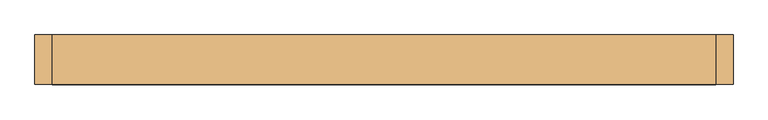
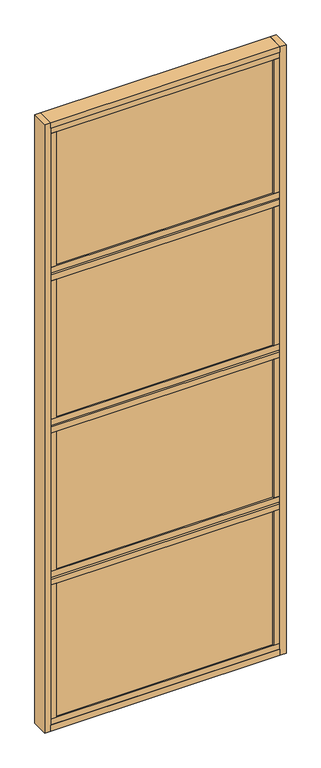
"""IFC4 building model written with IfcOpenShell, lengths in millimetres: door geometry, Mobiliário_Mobiliário de Escritório_Painel de Vidro Duplo - AV4T (Completo)_Marelli : AV4T - Temperado."""

from ifc_helpers import new_model, si_unit, frame, origin, origin_with_axes, place, context, project, spatial, polyline, outline, extrude, source, transform, mapped, element, save


def door_91ea66a1(model_context):
    return source(origin(), model_context, "Body", "SweptSolid", [
        extrude(outline(polyline([(570.0, 42.5), (570.0, -42.5), (-570.0, -42.5), (-570.0, 42.5), (570.0, 42.5)])), origin_with_axes(), (0.0, 0.0, 1.0), 30.0),
        extrude(outline(polyline([(570.0, 39.5), (570.0, -39.5), (-570.0, -39.5), (-570.0, 39.5), (570.0, 39.5)])), frame((0.0, 0.0, 2405.0), z_axis=(0.0, 0.0, 1.0), x_axis=(1.0, 0.0, 0.0)), (0.0, 0.0, 1.0), 30.0),
        extrude(outline(polyline([(-540.0, 39.5), (-540.0, -39.5), (-570.0, -39.5), (-570.0, 39.5), (-540.0, 39.5)])), frame((0.0, 0.0, 2435.0), z_axis=(0.0, 0.0, 1.0), x_axis=(1.0, 0.0, 0.0)), (0.0, 0.0, 1.0), 705.0),
        extrude(outline(polyline([(540.0, 39.5), (570.0, 39.5), (570.0, -39.5), (540.0, -39.5), (540.0, 39.5)])), frame((0.0, 0.0, 2435.0), z_axis=(0.0, 0.0, 1.0), x_axis=(1.0, 0.0, 0.0)), (0.0, 0.0, 1.0), 705.0),
        extrude(outline(polyline([(540.0, -25.5), (540.0, -31.5), (-540.0, -31.5), (-540.0, -25.5), (540.0, -25.5)])), frame((0.0, 0.0, 2435.0), z_axis=(0.0, 0.0, 1.0), x_axis=(1.0, 0.0, 0.0)), (0.0, 0.0, 1.0), 705.0),
        extrude(outline(polyline([(570.0, 21.5), (570.0, -21.5), (-570.0, -21.5), (-570.0, 21.5), (570.0, 21.5)])), frame((0.0, 0.0, 2395.0), z_axis=(0.0, 0.0, 1.0), x_axis=(1.0, 0.0, 0.0)), (0.0, 0.0, 1.0), 10.0),
        extrude(outline(polyline([(570.0, 21.5), (570.0, -21.5), (-570.0, -21.5), (-570.0, 21.5), (570.0, 21.5)])), frame((0.0, 0.0, 1595.0), z_axis=(0.0, 0.0, 1.0), x_axis=(1.0, 0.0, 0.0)), (0.0, 0.0, 1.0), 10.0),
        extrude(outline(polyline([(570.0, 21.5), (570.0, -21.5), (-570.0, -21.5), (-570.0, 21.5), (570.0, 21.5)])), frame((0.0, 0.0, 795.0), z_axis=(0.0, 0.0, 1.0), x_axis=(1.0, 0.0, 0.0)), (0.0, 0.0, 1.0), 10.0),
        extrude(outline(polyline([(570.0, 39.5), (570.0, -39.5), (-570.0, -39.5), (-570.0, 39.5), (570.0, 39.5)])), frame((0.0, 0.0, 1605.0), z_axis=(0.0, 0.0, 1.0), x_axis=(1.0, 0.0, 0.0)), (0.0, 0.0, 1.0), 30.0),
        extrude(outline(polyline([(570.0, 39.5), (570.0, -39.5), (-570.0, -39.5), (-570.0, 39.5), (570.0, 39.5)])), frame((0.0, 0.0, 2365.0), z_axis=(0.0, 0.0, 1.0), x_axis=(1.0, 0.0, 0.0)), (0.0, 0.0, 1.0), 30.0),
        extrude(outline(polyline([(570.0, 39.5), (570.0, -39.5), (-570.0, -39.5), (-570.0, 39.5), (570.0, 39.5)])), frame((0.0, 0.0, 1565.0), z_axis=(0.0, 0.0, 1.0), x_axis=(1.0, 0.0, 0.0)), (0.0, 0.0, 1.0), 30.0),
        extrude(outline(polyline([(570.0, 39.5), (570.0, -39.5), (-570.0, -39.5), (-570.0, 39.5), (570.0, 39.5)])), frame((0.0, 0.0, 805.0), z_axis=(0.0, 0.0, 1.0), x_axis=(1.0, 0.0, 0.0)), (0.0, 0.0, 1.0), 30.0),
        extrude(outline(polyline([(-540.0, 39.5), (-540.0, -39.5), (-570.0, -39.5), (-570.0, 39.5), (-540.0, 39.5)])), frame((0.0, 0.0, 60.0), z_axis=(0.0, 0.0, 1.0), x_axis=(1.0, 0.0, 0.0)), (0.0, 0.0, 1.0), 705.0),
        extrude(outline(polyline([(540.0, 39.5), (570.0, 39.5), (570.0, -39.5), (540.0, -39.5), (540.0, 39.5)])), frame((0.0, 0.0, 60.0), z_axis=(0.0, 0.0, 1.0), x_axis=(1.0, 0.0, 0.0)), (0.0, 0.0, 1.0), 705.0),
        extrude(outline(polyline([(570.0, 39.5), (570.0, -39.5), (-570.0, -39.5), (-570.0, 39.5), (570.0, 39.5)])), frame((0.0, 0.0, 765.0), z_axis=(0.0, 0.0, 1.0), x_axis=(1.0, 0.0, 0.0)), (0.0, 0.0, 1.0), 30.0),
        extrude(outline(polyline([(570.0, 39.5), (570.0, -39.5), (-570.0, -39.5), (-570.0, 39.5), (570.0, 39.5)])), frame((0.0, 0.0, 30.0), z_axis=(0.0, 0.0, 1.0), x_axis=(1.0, 0.0, 0.0)), (0.0, 0.0, 1.0), 30.0),
        extrude(outline(polyline([(540.0, -25.5), (540.0, -31.5), (-540.0, -31.5), (-540.0, -25.5), (540.0, -25.5)])), frame((0.0, 0.0, 60.0), z_axis=(0.0, 0.0, 1.0), x_axis=(1.0, 0.0, 0.0)), (0.0, 0.0, 1.0), 705.0),
        extrude(outline(polyline([(540.0, 31.5), (540.0, 25.5), (-540.0, 25.5), (-540.0, 31.5), (540.0, 31.5)])), frame((0.0, 0.0, 2435.0), z_axis=(0.0, 0.0, 1.0), x_axis=(1.0, 0.0, 0.0)), (0.0, 0.0, 1.0), 705.0),
        extrude(outline(polyline([(540.0, 31.5), (540.0, 25.5), (-540.0, 25.5), (-540.0, 31.5), (540.0, 31.5)])), frame((0.0, 0.0, 60.0), z_axis=(0.0, 0.0, 1.0), x_axis=(1.0, 0.0, 0.0)), (0.0, 0.0, 1.0), 705.0),
        extrude(outline(polyline([(570.0, 42.5), (570.0, -42.5), (-570.0, -42.5), (-570.0, 42.5), (570.0, 42.5)])), frame((0.0, 0.0, 3170.0), z_axis=(0.0, 0.0, 1.0), x_axis=(1.0, 0.0, 0.0)), (0.0, 0.0, 1.0), 30.0),
        extrude(outline(polyline([(570.0, 39.5), (570.0, -39.5), (-570.0, -39.5), (-570.0, 39.5), (570.0, 39.5)])), frame((0.0, 0.0, 3140.0), z_axis=(0.0, 0.0, 1.0), x_axis=(1.0, 0.0, 0.0)), (0.0, 0.0, 1.0), 30.0),
        extrude(outline(polyline([(-600.0, -42.5), (-600.0, 42.5), (-570.0, 42.5), (-570.0, -42.5), (-600.0, -42.5)])), origin_with_axes(), (0.0, 0.0, 1.0), 3200.0),
        extrude(outline(polyline([(600.0, -42.5), (570.0, -42.5), (570.0, 42.5), (600.0, 42.5), (600.0, -42.5)])), origin_with_axes(), (0.0, 0.0, 1.0), 3200.0),
        extrude(outline(polyline([(-540.0, 39.5), (-540.0, -39.5), (-570.0, -39.5), (-570.0, 39.5), (-540.0, 39.5)])), frame((0.0, 0.0, 1635.0), z_axis=(0.0, 0.0, 1.0), x_axis=(1.0, 0.0, 0.0)), (0.0, 0.0, 1.0), 730.0),
        extrude(outline(polyline([(540.0, 39.5), (570.0, 39.5), (570.0, -39.5), (540.0, -39.5), (540.0, 39.5)])), frame((0.0, 0.0, 1635.0), z_axis=(0.0, 0.0, 1.0), x_axis=(1.0, 0.0, 0.0)), (0.0, 0.0, 1.0), 730.0),
        extrude(outline(polyline([(540.0, -25.5), (540.0, -31.5), (-540.0, -31.5), (-540.0, -25.5), (540.0, -25.5)])), frame((0.0, 0.0, 1635.0), z_axis=(0.0, 0.0, 1.0), x_axis=(1.0, 0.0, 0.0)), (0.0, 0.0, 1.0), 730.0),
        extrude(outline(polyline([(540.0, 31.5), (540.0, 25.5), (-540.0, 25.5), (-540.0, 31.5), (540.0, 31.5)])), frame((0.0, 0.0, 1635.0), z_axis=(0.0, 0.0, 1.0), x_axis=(1.0, 0.0, 0.0)), (0.0, 0.0, 1.0), 730.0),
        extrude(outline(polyline([(-540.0, 39.5), (-540.0, -39.5), (-570.0, -39.5), (-570.0, 39.5), (-540.0, 39.5)])), frame((0.0, 0.0, 835.0), z_axis=(0.0, 0.0, 1.0), x_axis=(1.0, 0.0, 0.0)), (0.0, 0.0, 1.0), 730.0),
        extrude(outline(polyline([(540.0, 39.5), (570.0, 39.5), (570.0, -39.5), (540.0, -39.5), (540.0, 39.5)])), frame((0.0, 0.0, 835.0), z_axis=(0.0, 0.0, 1.0), x_axis=(1.0, 0.0, 0.0)), (0.0, 0.0, 1.0), 730.0),
        extrude(outline(polyline([(540.0, -25.5), (540.0, -31.5), (-540.0, -31.5), (-540.0, -25.5), (540.0, -25.5)])), frame((0.0, 0.0, 835.0), z_axis=(0.0, 0.0, 1.0), x_axis=(1.0, 0.0, 0.0)), (0.0, 0.0, 1.0), 730.0),
        extrude(outline(polyline([(540.0, 31.5), (540.0, 25.5), (-540.0, 25.5), (-540.0, 31.5), (540.0, 31.5)])), frame((0.0, 0.0, 835.0), z_axis=(0.0, 0.0, 1.0), x_axis=(1.0, 0.0, 0.0)), (0.0, 0.0, 1.0), 730.0),
    ])


if __name__ == "__main__":
    model = new_model("IFC4")
    model_context = context("Model", 3, world=origin())
    ifc_project = project(units=[si_unit("LENGTHUNIT", "METRE", prefix="MILLI")], contexts=[model_context])
    site = spatial("IfcSite", under=ifc_project)
    building = spatial("IfcBuilding", under=site)
    placement = place(None, origin())
    door_shape = door_91ea66a1(model_context)
    element("IfcDoor", 1, ObjectType="Mobiliário_Mobiliário de Escritório_Painel de Vidro Duplo - AV4T (Completo)_Marelli : AV4T - Temperado", at=placement, inside=building, context=model_context, shape_type="MappedRepresentation", body=[
        mapped(door_shape, transform((0.0, 0.0, 0.0), x_axis=(1.0, 0.0, 0.0), y_axis=(0.0, 1.0, 0.0), z_axis=(0.0, 0.0, 1.0))),
    ])
    save(model, "model.ifc")
